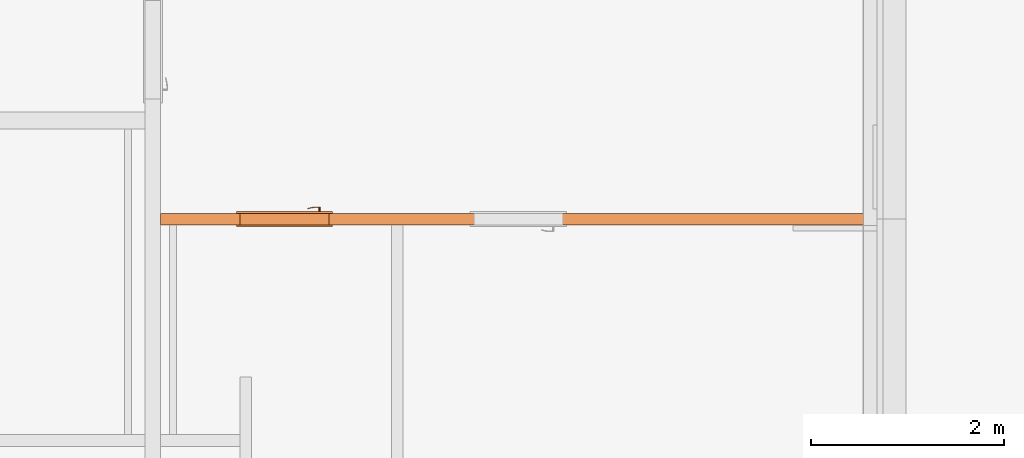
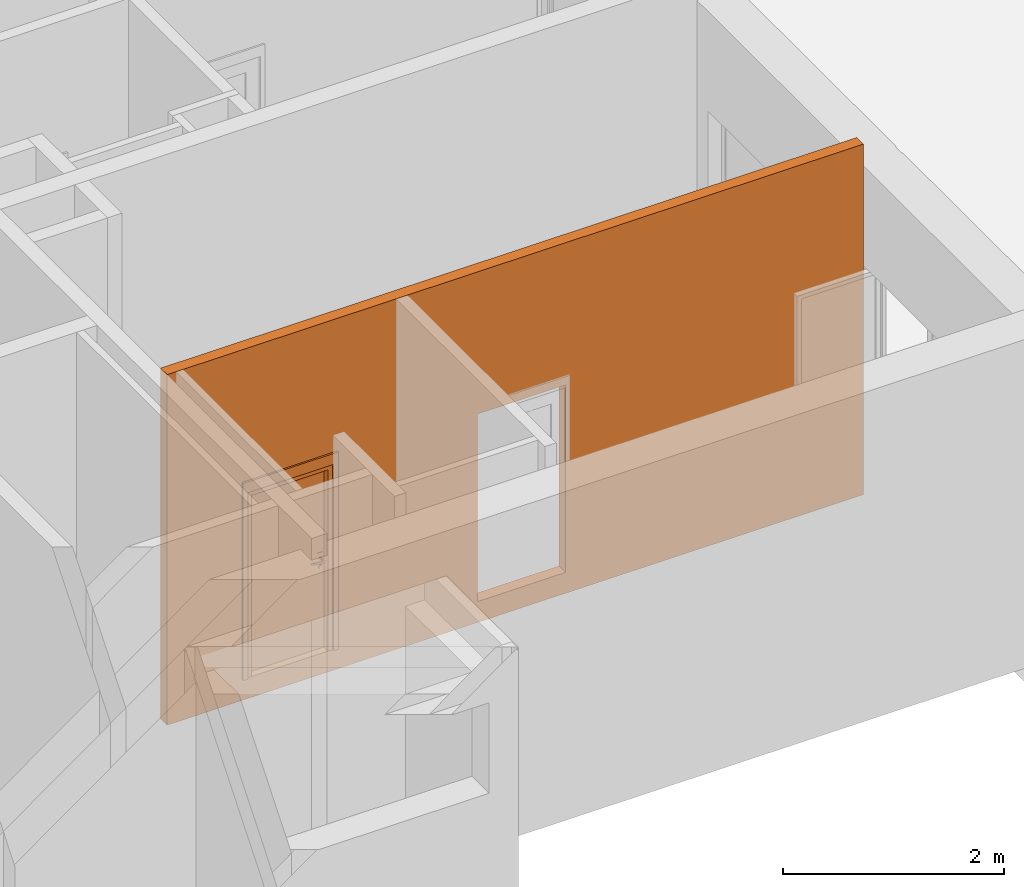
# One storey, part 8 of 46: 2 proxies, 2 openings.
"""IFC2X3 building model written with IfcOpenShell, lengths in millimetres."""

from ifc_helpers import new_model, entity, si_unit, converted_unit, derived_unit, money_unit, direction, frame, origin_with_axes, origin_2d_with_axis, place, context, subcontext, project, spatial, rectangle, extrude, open_shell, faceted_brep, surface_model, source, transform, mapped, material, type_object, element, fill, save


model = new_model("IFC2X3")

# Units and contexts
model_context = context("Model", 3, precision=0.01, world=origin_with_axes(), true_north=direction((0.34421633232, 0.938890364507)))
body_context = subcontext(model_context, "Body", "Model", "MODEL_VIEW")
ifc_project = project(units=[si_unit("LENGTHUNIT", "METRE", prefix="MILLI"), si_unit("AREAUNIT", "SQUARE_METRE"), si_unit("VOLUMEUNIT", "CUBIC_METRE"), converted_unit("PLANEANGLEUNIT", "DEGREE", entity("IfcPlaneAngleMeasure", 0.0174532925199), si_unit("PLANEANGLEUNIT", "RADIAN"), dimensions=[0, 0, 0, 0, 0, 0, 0]), si_unit("SOLIDANGLEUNIT", "STERADIAN"), money_unit("USD"), converted_unit("TIMEUNIT", "Year", entity("IfcTimeMeasure", 31556926.0), si_unit("TIMEUNIT", "SECOND"), dimensions=[0, 0, 1, 0, 0, 0, 0]), si_unit("MASSUNIT", "GRAM", prefix="KILO"), si_unit("THERMODYNAMICTEMPERATUREUNIT", "DEGREE_CELSIUS"), si_unit("LUMINOUSINTENSITYUNIT", "LUMEN"), si_unit("ENERGYUNIT", "JOULE", prefix="MEGA"), derived_unit("THERMALCONDUCTANCEUNIT", [(si_unit("POWERUNIT", "WATT"), 1), (si_unit("LENGTHUNIT", "METRE"), -1), (si_unit("THERMODYNAMICTEMPERATUREUNIT", "KELVIN"), -1)]), derived_unit("SPECIFICHEATCAPACITYUNIT", [(si_unit("ENERGYUNIT", "JOULE"), 1), (si_unit("MASSUNIT", "GRAM", prefix="KILO"), -1), (si_unit("THERMODYNAMICTEMPERATUREUNIT", "KELVIN"), -1)]), derived_unit("MASSDENSITYUNIT", [(si_unit("MASSUNIT", "GRAM", prefix="KILO"), 1), (si_unit("VOLUMEUNIT", "CUBIC_METRE"), -1)])], contexts=[model_context])

# Site, building, storey
site_placement = place(None, origin_with_axes())
site = spatial("IfcSite", under=ifc_project, at=site_placement, Name="USTRONIE MORSKIE", CompositionType="ELEMENT")
building_placement = place(site_placement, origin_with_axes())
building = spatial("IfcBuilding", under=site, at=building_placement, Name="Budynek", CompositionType="ELEMENT")
storey_placement = place(building_placement, origin_with_axes())
storey = spatial("IfcBuildingStorey", under=building, at=storey_placement, Name="PARTER", CompositionType="ELEMENT", Elevation=0.0)

# Proxies, openings
ifc_material = material(Name="Bloczki silikatowe")
building_element_proxy_type_1 = type_object("IfcBuildingElementProxyType", Name="Bloczki silikatowe 120", PredefinedType="NOTDEFINED")
proxy_1_placement = place(storey_placement, frame((359617.923565, 712051.218403, -230.0), z_axis=(0.0, 0.0, 1.0), x_axis=(1.0, 0.0, 0.0)))
proxy_1 = element("IfcBuildingElementProxy", 1, at=proxy_1_placement, inside=storey, type_object=building_element_proxy_type_1, material=ifc_material, Name="SW-04", context=body_context, shape_type="Brep", body=[
    faceted_brep([(7350.02788447, -59.9999999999, 3870.0), (7350.02788447, -59.9999999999, 3630.0), (7350.02763237, 59.9999999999, 3630.0), (7350.02763237, 59.9999999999, 3870.0), (7349.99735394, -59.9999999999, 0.0), (7349.99735394, -59.9999999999, 3630.0), (80.0, -59.9999999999, 3870.0), (80.0, -59.9999999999, 0.0), (7349.99735394, 59.9999999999, 3630.0), (7349.99735394, 59.9999999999, 0.0), (80.0, 59.9999999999, 0.0), (80.0, 59.9999999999, 3870.0)], [[[0, 1, 2, 3]], [[4, 5, 1, 0, 6, 7]], [[5, 8, 2, 1]], [[2, 8, 9, 10, 11, 3]], [[6, 0, 3, 11]], [[4, 9, 8, 5]], [[10, 7, 6, 11]], [[10, 9, 4, 7]]]),
])
opening_1_placement = place(proxy_1_placement, frame((1359.99735394, 0.0, 230.0), z_axis=(0.0, 0.0, 1.0), x_axis=(1.0, 0.0, 0.0)))
opening_1 = element("IfcOpeningElement", 2, at=opening_1_placement, cuts=proxy_1, Name="Dw.4", context=body_context, shape_type="SweptSolid", body=[
    extrude(rectangle(XDim=920.0, YDim=2070.0, at=origin_2d_with_axis()), frame((0.0, 120.0, 1035.0), z_axis=(0.0, 1.0, 0.0), x_axis=(-1.0, 0.0, 0.0)), (0.0, 0.0, -1.0), 360.0),
    extrude(rectangle(XDim=994.0, YDim=2177.0, at=origin_2d_with_axis()), frame((0.0, 60.0000000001, 1088.5), z_axis=(0.0, 1.0, 0.0), x_axis=(-1.0, 0.0, 0.0)), (0.0, 0.0, 1.0), 120.0),
    extrude(rectangle(XDim=994.0, YDim=2177.0, at=origin_2d_with_axis()), frame((0.0, -59.9999999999, 1088.5), z_axis=(0.0, -1.0, 0.0), x_axis=(-1.0, 0.0, 0.0)), (0.0, 0.0, 1.0), 120.0),
])
opening_2_placement = place(proxy_1_placement, frame((3779.99735394, 0.0, 230.0), z_axis=(0.0, 0.0, 1.0), x_axis=(1.0, 0.0, 0.0)))
element("IfcOpeningElement", 3, at=opening_2_placement, cuts=proxy_1, Name="Dw.3", context=body_context, shape_type="SweptSolid", body=[
    extrude(rectangle(XDim=920.0, YDim=2070.0, at=origin_2d_with_axis()), frame((0.0, 120.0, 1035.0), z_axis=(0.0, -1.0, 0.0), x_axis=(-1.0, 0.0, 0.0)), (0.0, 0.0, 1.0), 360.0),
    extrude(rectangle(XDim=994.0, YDim=2177.0, at=origin_2d_with_axis()), frame((0.0, 60.0000000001, 1088.5), z_axis=(0.0, -1.0, 0.0), x_axis=(-1.0, 0.0, 0.0)), (0.0, 0.0, -1.0), 120.0),
    extrude(rectangle(XDim=994.0, YDim=2177.0, at=origin_2d_with_axis()), frame((0.0, -59.9999999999, 1088.5), z_axis=(0.0, 1.0, 0.0), x_axis=(-1.0, 0.0, 0.0)), (0.0, 0.0, -1.0), 120.0),
])
building_element_proxy_type_2 = type_object("IfcBuildingElementProxyType", Name="Drzwi 23", PredefinedType="NOTDEFINED")
shared_shape = source(origin_with_axes(), body_context, "Body", "SurfaceModel", [
    faceted_brep([(460.0, 0.0, 0.0), (435.0, 0.0, 0.0), (435.0, 5.0, 0.0), (460.0, 5.0, 0.0), (460.0, 0.0, 2070.0), (435.0, 0.0, 2045.0), (435.0, 5.0, 2045.0), (460.0, 5.0, 2070.0)], [[[0, 1, 2, 3]], [[0, 4, 5, 1]], [[1, 5, 6, 2]], [[3, 2, 6, 7]], [[4, 0, 3, 7]], [[5, 4, 7, 6]]]),
    faceted_brep([(-460.0, 0.0, 2070.0), (-435.0, 0.0, 2045.0), (-435.0, 5.0, 2045.0), (-460.0, 5.0, 2070.0), (-460.0, 0.0, 0.0), (-435.0, 0.0, 0.0), (-435.0, 5.0, 0.0), (-460.0, 5.0, 0.0)], [[[0, 1, 2, 3]], [[0, 4, 5, 1]], [[1, 5, 6, 2]], [[3, 2, 6, 7]], [[4, 0, 3, 7]], [[5, 4, 7, 6]]]),
    faceted_brep([(435.0, 0.0, 2045.0), (-435.0, 0.0, 2045.0), (-435.0, 5.0, 2045.0), (435.0, 5.0, 2045.0), (460.0, 0.0, 2070.0), (-460.0, 0.0, 2070.0), (-460.0, 5.0, 2070.0), (460.0, 5.0, 2070.0)], [[[0, 1, 2, 3]], [[0, 4, 5, 1]], [[1, 5, 6, 2]], [[3, 2, 6, 7]], [[4, 0, 3, 7]], [[5, 4, 7, 6]]]),
    faceted_brep([(497.0, 24.0, 0.0), (497.0, 5.0, 0.0), (447.0, 5.0, 0.0), (447.0, 24.0, 0.0), (497.0, 24.0, 2177.0), (497.0, 5.0, 2177.0), (447.0, 5.0, 2057.0), (447.0, 24.0, 2057.0)], [[[0, 1, 2, 3]], [[4, 5, 1, 0]], [[1, 5, 6, 2]], [[3, 2, 6, 7]], [[0, 3, 7, 4]], [[7, 6, 5, 4]]]),
    faceted_brep([(-497.0, 24.0, 2177.0), (-497.0, 5.0, 2177.0), (-447.0, 5.0, 2057.0), (-447.0, 24.0, 2057.0), (-497.0, 24.0, 0.0), (-497.0, 5.0, 0.0), (-447.0, 5.0, 0.0), (-447.0, 24.0, 0.0)], [[[0, 1, 2, 3]], [[4, 5, 1, 0]], [[1, 5, 6, 2]], [[3, 2, 6, 7]], [[0, 3, 7, 4]], [[7, 6, 5, 4]]]),
    faceted_brep([(497.0, 24.0, 2177.0), (497.0, 5.0, 2177.0), (447.0, 5.0, 2057.0), (447.0, 24.0, 2057.0), (-497.0, 24.0, 2177.0), (-497.0, 5.0, 2177.0), (-447.0, 5.0, 2057.0), (-447.0, 24.0, 2057.0)], [[[0, 1, 2, 3]], [[4, 5, 1, 0]], [[1, 5, 6, 2]], [[3, 2, 6, 7]], [[0, 3, 7, 4]], [[7, 6, 5, 4]]]),
    faceted_brep([(497.0, -134.0, 0.0), (447.0, -134.0, 0.0), (447.0, -115.0, 0.0), (497.0, -115.0, 0.0), (497.0, -134.0, 2177.0), (447.0, -134.0, 2057.0), (447.0, -115.0, 2057.0), (497.0, -115.0, 2177.0)], [[[0, 1, 2, 3]], [[0, 4, 5, 1]], [[1, 5, 6, 2]], [[3, 2, 6, 7]], [[4, 0, 3, 7]], [[5, 4, 7, 6]]]),
    faceted_brep([(-497.0, -134.0, 2177.0), (-447.0, -134.0, 2057.0), (-447.0, -115.0, 2057.0), (-497.0, -115.0, 2177.0), (-497.0, -134.0, 0.0), (-447.0, -134.0, 0.0), (-447.0, -115.0, 0.0), (-497.0, -115.0, 0.0)], [[[0, 1, 2, 3]], [[0, 4, 5, 1]], [[1, 5, 6, 2]], [[3, 2, 6, 7]], [[4, 0, 3, 7]], [[5, 4, 7, 6]]]),
    faceted_brep([(497.0, -134.0, 2177.0), (447.0, -134.0, 2057.0), (447.0, -115.0, 2057.0), (497.0, -115.0, 2177.0), (-497.0, -134.0, 2177.0), (-447.0, -134.0, 2057.0), (-447.0, -115.0, 2057.0), (-497.0, -115.0, 2177.0)], [[[0, 1, 2, 3]], [[0, 4, 5, 1]], [[1, 5, 6, 2]], [[3, 2, 6, 7]], [[4, 0, 3, 7]], [[5, 4, 7, 6]]]),
    faceted_brep([(400.0, -40.0, 0.0), (400.0, -115.0, 0.0), (400.0, -115.0, 2000.0), (400.0, -40.0, 2000.0), (412.0, -40.0, 0.0), (412.0, 0.0, 0.0), (460.0, 0.0, 0.0), (460.0, -115.0, 0.0), (460.0, -115.0, 2000.0), (412.0, -40.0, 2000.0), (460.0, 0.0, 2000.0), (412.0, 0.0, 2000.0)], [[[0, 1, 2, 3]], [[4, 5, 6, 7, 1, 0]], [[1, 7, 8, 2]], [[9, 3, 2, 8, 10, 11]], [[9, 4, 0, 3]], [[11, 5, 4, 9]], [[11, 10, 6, 5]], [[6, 10, 8, 7]]]),
    faceted_brep([(-412.0, -40.0, 2000.0), (-412.0, 0.0, 2000.0), (-460.0, 0.0, 2000.0), (-460.0, -115.0, 2000.0), (-400.0, -115.0, 2000.0), (-400.0, -40.0, 2000.0), (-412.0, -40.0, 0.0), (-412.0, 0.0, 0.0), (-460.0, 0.0, 0.0), (-460.0, -115.0, 0.0), (-400.0, -115.0, 0.0), (-400.0, -40.0, 0.0)], [[[0, 1, 2, 3, 4, 5]], [[0, 6, 7, 1]], [[7, 8, 2, 1]], [[2, 8, 9, 3]], [[3, 9, 10, 4]], [[5, 4, 10, 11]], [[5, 11, 6, 0]], [[6, 11, 10, 9, 8, 7]]]),
    faceted_brep([(412.0, 0.0, 2012.0), (-412.0, 0.0, 2012.0), (-412.0, 0.0, 2000.0), (-460.0, 0.0, 2000.0), (-460.0, 0.0, 2070.0), (460.0, 0.0, 2070.0), (460.0, 0.0, 2000.0), (412.0, 0.0, 2000.0), (412.0, -40.0, 2012.0), (-412.0, -40.0, 2012.0), (-412.0, -40.0, 2000.0), (-400.0, -40.0, 2000.0), (-400.0, -115.0, 2000.0), (-460.0, -115.0, 2000.0), (-460.0, -115.0, 2070.0), (460.0, -115.0, 2070.0), (460.0, -115.0, 2000.0), (412.0, -40.0, 2000.0), (400.0, -115.0, 2000.0), (400.0, -40.0, 2000.0)], [[[0, 1, 2, 3, 4, 5, 6, 7]], [[0, 8, 9, 1]], [[1, 9, 10, 2]], [[10, 11, 12, 13, 3, 2]], [[4, 3, 13, 14]], [[5, 4, 14, 15]], [[6, 5, 15, 16]], [[17, 7, 6, 16, 18, 19]], [[7, 17, 8, 0]], [[10, 9, 8, 17, 19, 11]], [[19, 18, 12, 11]], [[12, 18, 16, 15, 14, 13]]]),
    faceted_brep([(390.5, -40.0, 1060.0), (333.5, -40.0, 1060.0), (333.5, -43.0, 1060.0), (390.5, -43.0, 1060.0), (390.5, -40.0, 870.0), (333.5, -40.0, 870.0), (333.5, -43.0, 870.0), (390.5, -43.0, 870.0)], [[[0, 1, 2, 3]], [[0, 4, 5, 1]], [[1, 5, 6, 2]], [[3, 2, 6, 7]], [[4, 0, 3, 7]], [[5, 4, 7, 6]]]),
    faceted_brep([(362.0, -104.0, 990.0), (367.0, -104.0, 991.339745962), (367.0, -111.0, 991.339745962), (362.0, -111.0, 990.0), (337.0, -104.0, 990.0), (337.0, -104.0, 1010.0), (362.0, -104.0, 1010.0), (367.0, -104.0, 1008.66025404), (370.660254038, -104.0, 1005.0), (372.0, -104.0, 1000.0), (370.660254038, -104.0, 995.0), (370.660254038, -111.0, 995.0), (372.0, -111.0, 1000.0), (370.660254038, -111.0, 1005.0), (367.0, -111.0, 1008.66025404), (362.0, -111.0, 1010.0), (337.0, -111.0, 1010.0), (337.0, -111.0, 990.0)], [[[0, 1, 2, 3]], [[0, 4, 5, 6, 7, 8, 9, 10, 1]], [[1, 10, 11, 2]], [[3, 2, 11, 12, 13, 14, 15, 16, 17]], [[4, 0, 3, 17]], [[5, 4, 17, 16]], [[6, 5, 16, 15]], [[7, 6, 15, 14]], [[8, 7, 14, 13]], [[9, 8, 13, 12]], [[10, 9, 12, 11]]]),
    surface_model("IfcShellBasedSurfaceModel", [(337.0, -104.0, 1010.0), (323.901717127, -104.0, 1009.60730092), (323.596090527, -111.0, 1009.60730092), (337.0, -104.0, 990.0), (323.901717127, -104.0, 990.392699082), (296.890283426, -108.663544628, 1008.82190275), (337.0, -111.0, 1010.0), (337.0, -111.0, 990.0), (297.804837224, -101.716818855, 991.178097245), (297.804837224, -101.716818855, 1008.82190275), (296.890283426, -108.663544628, 991.178097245), (323.596090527, -111.0, 990.392699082), (272.006256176, -97.1678329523, 991.963495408), (272.006256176, -97.1678329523, 1008.03650459), (270.489735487, -104.008415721, 1008.03650459), (270.489735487, -104.008415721, 991.963495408), (246.702316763, -90.3876628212, 992.748893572), (246.702316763, -90.3876628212, 1007.25110643), (244.59537082, -97.0700416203, 1007.25110643), (244.59537082, -97.0700416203, 992.748893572), (238.829442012, -87.5221707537, 993.0), (238.829442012, -87.5221707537, 1007.0), (236.538795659, -94.1376880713, 1007.0), (236.538795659, -94.1376880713, 993.0)], [open_shell([[[0, 1, 2]], [[0, 3, 4, 1]], [[1, 5, 2]], [[0, 2, 6]], [[4, 3, 7]], [[1, 4, 8, 9]], [[1, 9, 5]], [[2, 5, 10, 11]], [[6, 2, 11, 7]], [[4, 7, 11]], [[8, 4, 11]], [[9, 8, 12, 13]], [[9, 14, 5]], [[5, 14, 15, 10]], [[8, 11, 10]], [[12, 8, 10]], [[13, 12, 16, 17]], [[9, 13, 14]], [[14, 18, 19, 15]], [[12, 10, 15]], [[16, 12, 15]], [[17, 16, 20, 21]], [[13, 17, 18]], [[13, 18, 14]], [[18, 22, 23, 19]], [[16, 15, 19]], [[20, 16, 19]], [[21, 20, 23, 22]], [[17, 21, 22]], [[17, 22, 18]], [[20, 19, 23]]])]),
    faceted_brep([(351.607695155, -53.0, 994.0), (350.0, -53.0, 1000.0), (349.0, -43.0, 1000.0), (350.741669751, -43.0, 993.5), (356.0, -53.0, 989.607695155), (362.0, -53.0, 988.0), (368.0, -53.0, 989.607695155), (372.392304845, -53.0, 994.0), (374.0, -53.0, 1000.0), (372.392304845, -53.0, 1006.0), (368.0, -53.0, 1010.39230485), (362.0, -53.0, 1012.0), (356.0, -53.0, 1010.39230485), (351.607695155, -53.0, 1006.0), (350.741669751, -43.0, 1006.5), (355.5, -43.0, 1011.25833025), (362.0, -43.0, 1013.0), (368.5, -43.0, 1011.25833025), (373.258330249, -43.0, 1006.5), (375.0, -43.0, 1000.0), (373.258330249, -43.0, 993.5), (368.5, -43.0, 988.741669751), (362.0, -43.0, 987.0), (355.5, -43.0, 988.741669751)], [[[0, 1, 2, 3]], [[1, 0, 4, 5, 6, 7, 8, 9, 10, 11, 12, 13]], [[1, 13, 14, 2]], [[2, 14, 15, 16, 17, 18, 19, 20, 21, 22, 23, 3]], [[4, 0, 3, 23]], [[5, 4, 23, 22]], [[6, 5, 22, 21]], [[7, 6, 21, 20]], [[8, 7, 20, 19]], [[9, 8, 19, 18]], [[10, 9, 18, 17]], [[11, 10, 17, 16]], [[12, 11, 16, 15]], [[13, 12, 15, 14]]]),
    faceted_brep([(344.679491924, -47.0, 895.0), (342.0, -47.0, 905.0), (340.0, -43.0, 905.0), (342.947441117, -43.0, 894.0), (352.0, -47.0, 887.679491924), (362.0, -47.0, 885.0), (372.0, -47.0, 887.679491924), (379.320508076, -47.0, 895.0), (382.0, -47.0, 905.0), (379.320508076, -47.0, 915.0), (372.0, -47.0, 922.320508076), (362.0, -47.0, 925.0), (352.0, -47.0, 922.320508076), (344.679491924, -47.0, 915.0), (342.947441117, -43.0, 916.0), (351.0, -43.0, 924.052558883), (362.0, -43.0, 927.0), (373.0, -43.0, 924.052558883), (381.052558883, -43.0, 916.0), (384.0, -43.0, 905.0), (381.052558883, -43.0, 894.0), (373.0, -43.0, 885.947441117), (362.0, -43.0, 883.0), (351.0, -43.0, 885.947441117)], [[[0, 1, 2, 3]], [[1, 0, 4, 5, 6, 7, 8, 9, 10, 11, 12, 13]], [[1, 13, 14, 2]], [[2, 14, 15, 16, 17, 18, 19, 20, 21, 22, 23, 3]], [[4, 0, 3, 23]], [[5, 4, 23, 22]], [[6, 5, 22, 21]], [[7, 6, 21, 20]], [[8, 7, 20, 19]], [[9, 8, 19, 18]], [[10, 9, 18, 17]], [[11, 10, 17, 16]], [[12, 11, 16, 15]], [[13, 12, 15, 14]]]),
    faceted_brep([(357.050252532, -49.0, 909.050252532), (355.0, -49.0, 914.0), (354.0, -47.0, 914.0), (356.343145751, -47.0, 908.343145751), (362.0, -49.0, 907.0), (366.949747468, -49.0, 909.050252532), (369.0, -49.0, 914.0), (366.949747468, -49.0, 918.949747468), (362.0, -49.0, 921.0), (357.050252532, -49.0, 918.949747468), (356.343145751, -47.0, 919.656854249), (362.0, -47.0, 922.0), (367.656854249, -47.0, 919.656854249), (370.0, -47.0, 914.0), (367.656854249, -47.0, 908.343145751), (362.0, -47.0, 906.0)], [[[0, 1, 2, 3]], [[1, 0, 4, 5, 6, 7, 8, 9]], [[1, 9, 10, 2]], [[2, 10, 11, 12, 13, 14, 15, 3]], [[4, 0, 3, 15]], [[5, 4, 15, 14]], [[6, 5, 14, 13]], [[7, 6, 13, 12]], [[8, 7, 12, 11]], [[9, 8, 11, 10]]]),
    faceted_brep([(362.0, -53.0, 1010.0), (357.0, -53.0, 1008.66025404), (357.0, -104.0, 1008.66025404), (362.0, -104.0, 1010.0), (367.0, -53.0, 1008.66025404), (370.660254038, -53.0, 1005.0), (372.0, -53.0, 1000.0), (370.660254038, -53.0, 995.0), (367.0, -53.0, 991.339745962), (362.0, -53.0, 990.0), (357.0, -53.0, 991.339745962), (353.339745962, -53.0, 995.0), (352.0, -53.0, 1000.0), (353.339745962, -53.0, 1005.0), (353.339745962, -104.0, 1005.0), (352.0, -104.0, 1000.0), (353.339745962, -104.0, 995.0), (357.0, -104.0, 991.339745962), (362.0, -104.0, 990.0), (367.0, -104.0, 991.339745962), (370.660254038, -104.0, 995.0), (372.0, -104.0, 1000.0), (370.660254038, -104.0, 1005.0), (367.0, -104.0, 1008.66025404)], [[[0, 1, 2, 3]], [[0, 4, 5, 6, 7, 8, 9, 10, 11, 12, 13, 1]], [[1, 13, 14, 2]], [[3, 2, 14, 15, 16, 17, 18, 19, 20, 21, 22, 23]], [[4, 0, 3, 23]], [[5, 4, 23, 22]], [[6, 5, 22, 21]], [[7, 6, 21, 20]], [[8, 7, 20, 19]], [[9, 8, 19, 18]], [[10, 9, 18, 17]], [[11, 10, 17, 16]], [[12, 11, 16, 15]], [[13, 12, 15, 14]]]),
    faceted_brep([(390.5, 0.0, 1060.0), (390.5, 3.0, 1060.0), (333.5, 3.0, 1060.0), (333.5, 0.0, 1060.0), (390.5, 0.0, 870.0), (390.5, 3.0, 870.0), (333.5, 3.0, 870.0), (333.5, 0.0, 870.0)], [[[0, 1, 2, 3]], [[4, 5, 1, 0]], [[1, 5, 6, 2]], [[3, 2, 6, 7]], [[0, 3, 7, 4]], [[7, 6, 5, 4]]]),
    faceted_brep([(362.0, 64.0, 990.0), (362.0, 71.0, 990.0), (367.0, 71.0, 991.339745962), (367.0, 64.0, 991.339745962), (337.0, 64.0, 990.0), (337.0, 71.0, 990.0), (337.0, 71.0, 1010.0), (362.0, 71.0, 1010.0), (367.0, 71.0, 1008.66025404), (370.660254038, 71.0, 1005.0), (372.0, 71.0, 1000.0), (370.660254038, 71.0, 995.0), (370.660254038, 64.0, 995.0), (372.0, 64.0, 1000.0), (370.660254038, 64.0, 1005.0), (367.0, 64.0, 1008.66025404), (362.0, 64.0, 1010.0), (337.0, 64.0, 1010.0)], [[[0, 1, 2, 3]], [[4, 5, 1, 0]], [[1, 5, 6, 7, 8, 9, 10, 11, 2]], [[3, 2, 11, 12]], [[0, 3, 12, 13, 14, 15, 16, 17, 4]], [[17, 6, 5, 4]], [[16, 7, 6, 17]], [[15, 8, 7, 16]], [[14, 9, 8, 15]], [[13, 10, 9, 14]], [[12, 11, 10, 13]]]),
    surface_model("IfcShellBasedSurfaceModel", [(337.0, 64.0, 1010.0), (323.596090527, 71.0, 1009.60730092), (323.901717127, 64.0, 1009.60730092), (337.0, 71.0, 1010.0), (296.890283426, 68.6635446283, 1008.82190275), (323.901717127, 64.0, 990.392699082), (337.0, 64.0, 990.0), (337.0, 71.0, 990.0), (323.596090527, 71.0, 990.392699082), (296.890283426, 68.6635446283, 991.178097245), (297.804837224, 61.716818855, 1008.82190275), (297.804837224, 61.716818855, 991.178097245), (270.489735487, 64.0084157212, 991.963495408), (270.489735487, 64.0084157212, 1008.03650459), (272.006256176, 57.1678329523, 1008.03650459), (272.006256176, 57.1678329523, 991.963495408), (244.59537082, 57.0700416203, 992.748893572), (244.59537082, 57.0700416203, 1007.25110643), (246.702316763, 50.3876628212, 1007.25110643), (246.702316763, 50.3876628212, 992.748893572), (236.538795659, 54.1376880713, 993.0), (236.538795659, 54.1376880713, 1007.0), (238.829442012, 47.5221707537, 1007.0), (238.829442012, 47.5221707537, 993.0)], [open_shell([[[0, 1, 2]], [[0, 3, 1]], [[2, 1, 4]], [[0, 2, 5, 6]], [[3, 7, 8, 1]], [[1, 8, 9, 4]], [[2, 4, 10]], [[2, 10, 11, 5]], [[5, 7, 6]], [[5, 8, 7]], [[11, 9, 8]], [[4, 9, 12, 13]], [[10, 4, 13]], [[10, 14, 15, 11]], [[11, 8, 5]], [[15, 9, 11]], [[15, 12, 9]], [[13, 12, 16, 17]], [[10, 13, 14]], [[14, 18, 19, 15]], [[19, 12, 15]], [[19, 16, 12]], [[17, 16, 20, 21]], [[14, 13, 17]], [[14, 17, 18]], [[18, 22, 23, 19]], [[23, 16, 19]], [[23, 20, 16]], [[22, 21, 20, 23]], [[18, 17, 21]], [[18, 21, 22]]])]),
    faceted_brep([(351.607695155, 13.0, 994.0), (350.741669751, 3.0, 993.5), (349.0, 3.0, 1000.0), (350.0, 13.0, 1000.0), (356.0, 13.0, 989.607695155), (355.5, 3.0, 988.741669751), (362.0, 3.0, 987.0), (368.5, 3.0, 988.741669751), (373.258330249, 3.0, 993.5), (375.0, 3.0, 1000.0), (373.258330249, 3.0, 1006.5), (368.5, 3.0, 1011.25833025), (362.0, 3.0, 1013.0), (355.5, 3.0, 1011.25833025), (350.741669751, 3.0, 1006.5), (351.607695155, 13.0, 1006.0), (356.0, 13.0, 1010.39230485), (362.0, 13.0, 1012.0), (368.0, 13.0, 1010.39230485), (372.392304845, 13.0, 1006.0), (374.0, 13.0, 1000.0), (372.392304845, 13.0, 994.0), (368.0, 13.0, 989.607695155), (362.0, 13.0, 988.0)], [[[0, 1, 2, 3]], [[4, 5, 1, 0]], [[2, 1, 5, 6, 7, 8, 9, 10, 11, 12, 13, 14]], [[3, 2, 14, 15]], [[3, 15, 16, 17, 18, 19, 20, 21, 22, 23, 4, 0]], [[23, 6, 5, 4]], [[22, 7, 6, 23]], [[21, 8, 7, 22]], [[20, 9, 8, 21]], [[19, 10, 9, 20]], [[18, 11, 10, 19]], [[17, 12, 11, 18]], [[16, 13, 12, 17]], [[15, 14, 13, 16]]]),
    faceted_brep([(344.679491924, 7.0, 895.0), (342.947441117, 3.0, 894.0), (340.0, 3.0, 905.0), (342.0, 7.0, 905.0), (352.0, 7.0, 887.679491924), (351.0, 3.0, 885.947441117), (362.0, 3.0, 883.0), (373.0, 3.0, 885.947441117), (381.052558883, 3.0, 894.0), (384.0, 3.0, 905.0), (381.052558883, 3.0, 916.0), (373.0, 3.0, 924.052558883), (362.0, 3.0, 927.0), (351.0, 3.0, 924.052558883), (342.947441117, 3.0, 916.0), (344.679491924, 7.0, 915.0), (352.0, 7.0, 922.320508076), (362.0, 7.0, 925.0), (372.0, 7.0, 922.320508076), (379.320508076, 7.0, 915.0), (382.0, 7.0, 905.0), (379.320508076, 7.0, 895.0), (372.0, 7.0, 887.679491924), (362.0, 7.0, 885.0)], [[[0, 1, 2, 3]], [[4, 5, 1, 0]], [[2, 1, 5, 6, 7, 8, 9, 10, 11, 12, 13, 14]], [[3, 2, 14, 15]], [[3, 15, 16, 17, 18, 19, 20, 21, 22, 23, 4, 0]], [[23, 6, 5, 4]], [[22, 7, 6, 23]], [[21, 8, 7, 22]], [[20, 9, 8, 21]], [[19, 10, 9, 20]], [[18, 11, 10, 19]], [[17, 12, 11, 18]], [[16, 13, 12, 17]], [[15, 14, 13, 16]]]),
    faceted_brep([(357.050252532, 9.0, 909.050252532), (356.343145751, 7.0, 908.343145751), (354.0, 7.0, 914.0), (355.0, 9.0, 914.0), (362.0, 9.0, 907.0), (362.0, 7.0, 906.0), (367.656854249, 7.0, 908.343145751), (370.0, 7.0, 914.0), (367.656854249, 7.0, 919.656854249), (362.0, 7.0, 922.0), (356.343145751, 7.0, 919.656854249), (357.050252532, 9.0, 918.949747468), (362.0, 9.0, 921.0), (366.949747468, 9.0, 918.949747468), (369.0, 9.0, 914.0), (366.949747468, 9.0, 909.050252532)], [[[0, 1, 2, 3]], [[4, 5, 1, 0]], [[2, 1, 5, 6, 7, 8, 9, 10]], [[3, 2, 10, 11]], [[3, 11, 12, 13, 14, 15, 4, 0]], [[15, 6, 5, 4]], [[14, 7, 6, 15]], [[13, 8, 7, 14]], [[12, 9, 8, 13]], [[11, 10, 9, 12]]]),
    faceted_brep([(362.0, 13.0, 1010.0), (362.0, 64.0, 1010.0), (357.0, 64.0, 1008.66025404), (357.0, 13.0, 1008.66025404), (367.0, 13.0, 1008.66025404), (367.0, 64.0, 1008.66025404), (370.660254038, 64.0, 1005.0), (372.0, 64.0, 1000.0), (370.660254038, 64.0, 995.0), (367.0, 64.0, 991.339745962), (362.0, 64.0, 990.0), (357.0, 64.0, 991.339745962), (353.339745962, 64.0, 995.0), (352.0, 64.0, 1000.0), (353.339745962, 64.0, 1005.0), (353.339745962, 13.0, 1005.0), (352.0, 13.0, 1000.0), (353.339745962, 13.0, 995.0), (357.0, 13.0, 991.339745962), (362.0, 13.0, 990.0), (367.0, 13.0, 991.339745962), (370.660254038, 13.0, 995.0), (372.0, 13.0, 1000.0), (370.660254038, 13.0, 1005.0)], [[[0, 1, 2, 3]], [[4, 5, 1, 0]], [[1, 5, 6, 7, 8, 9, 10, 11, 12, 13, 14, 2]], [[3, 2, 14, 15]], [[0, 3, 15, 16, 17, 18, 19, 20, 21, 22, 23, 4]], [[23, 6, 5, 4]], [[22, 7, 6, 23]], [[21, 8, 7, 22]], [[20, 9, 8, 21]], [[19, 10, 9, 20]], [[18, 11, 10, 19]], [[17, 12, 11, 18]], [[16, 13, 12, 17]], [[15, 14, 13, 16]]]),
    faceted_brep([(-412.0, 0.0, 0.0), (412.0, 0.0, 0.0), (412.0, -40.0, 0.0), (-412.0, -40.0, 0.0), (-412.0, 0.0, 2012.0), (412.0, 0.0, 2012.0), (412.0, -40.0, 2012.0), (-412.0, -40.0, 2012.0)], [[[0, 1, 2, 3]], [[0, 4, 5, 1]], [[1, 5, 6, 2]], [[3, 2, 6, 7]], [[4, 0, 3, 7]], [[5, 4, 7, 6]]]),
])
proxy_2_placement = place(opening_1_placement, frame((-400.0, 0.0, 0.0), z_axis=(0.0, 0.0, 1.0), x_axis=(1.0, 0.0, 0.0)))
proxy_2 = element("IfcBuildingElementProxy", 4, at=proxy_2_placement, inside=storey, type_object=building_element_proxy_type_2, Name="Dw.4", context=body_context, shape_type="MappedRepresentation", body=[
    mapped(shared_shape, transform((400.0, 55.0000000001, 0.0))),
])
fill(opening_1, proxy_2)

save(model, "model.ifc")
